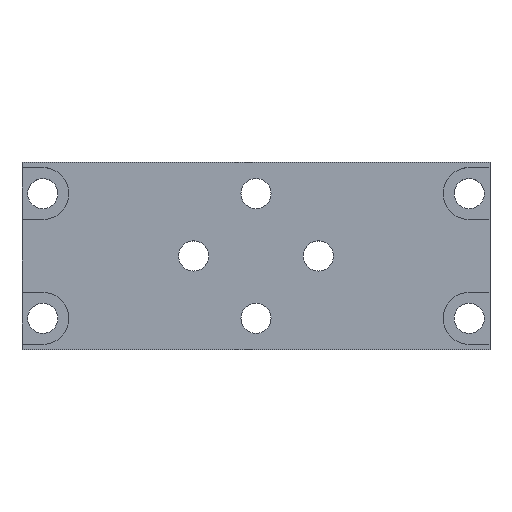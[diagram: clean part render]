
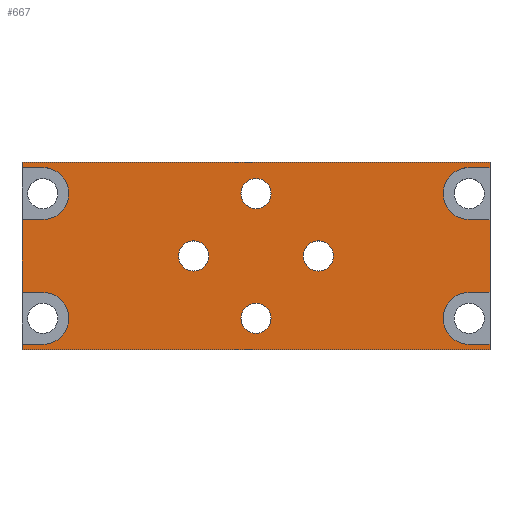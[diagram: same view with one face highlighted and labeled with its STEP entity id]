
A CAD part, top view. The second image highlights one B-rep face of the part: STEP entity #667.
In plain terms, the highlighted planar face has unit normal (0, 0, 1).
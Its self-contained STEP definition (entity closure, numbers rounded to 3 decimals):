
#15=LINE($,#1000,#67);
#19=LINE($,#1009,#71);
#23=LINE($,#1018,#75);
#27=LINE($,#1027,#79);
#31=LINE($,#1036,#83);
#35=LINE($,#1045,#87);
#39=LINE($,#1054,#91);
#43=LINE($,#1063,#95);
#46=LINE($,#1079,#98);
#47=LINE($,#1081,#99);
#48=LINE($,#1083,#100);
#49=LINE($,#1084,#101);
#50=LINE($,#1085,#102);
#51=LINE($,#1088,#103);
#52=LINE($,#1090,#104);
#53=LINE($,#1091,#105);
#67=VECTOR($,#816,2.);
#71=VECTOR($,#822,2.);
#75=VECTOR($,#828,2.);
#79=VECTOR($,#834,2.);
#83=VECTOR($,#840,2.);
#87=VECTOR($,#846,2.);
#91=VECTOR($,#852,2.);
#95=VECTOR($,#858,2.);
#98=VECTOR($,#885,7.);
#99=VECTOR($,#886,0.5);
#100=VECTOR($,#887,45.);
#101=VECTOR($,#888,0.5);
#102=VECTOR($,#889,7.);
#103=VECTOR($,#892,0.5);
#104=VECTOR($,#893,45.);
#105=VECTOR($,#894,0.5);
#147=FACE_BOUND($,#240,.T.);
#148=FACE_BOUND($,#241,.T.);
#149=FACE_BOUND($,#242,.T.);
#150=FACE_BOUND($,#243,.T.);
#151=FACE_BOUND($,#244,.T.);
#240=EDGE_LOOP($,(#526));
#241=EDGE_LOOP($,(#527));
#242=EDGE_LOOP($,(#528));
#243=EDGE_LOOP($,(#529));
#244=EDGE_LOOP($,(#530,#531,#532,#533,#534,#535,#536,#537,#538,#539,#540,
#541,#542,#543,#544,#545,#546,#547,#548,#549));
#276=CIRCLE($,#690,1.45);
#280=CIRCLE($,#697,1.45);
#284=CIRCLE($,#704,1.45);
#288=CIRCLE($,#711,1.45);
#291=CIRCLE($,#724,2.5);
#293=CIRCLE($,#727,2.5);
#295=CIRCLE($,#730,2.5);
#296=CIRCLE($,#732,2.5);
#308=VERTEX_POINT($,#958);
#312=VERTEX_POINT($,#969);
#316=VERTEX_POINT($,#980);
#320=VERTEX_POINT($,#991);
#323=VERTEX_POINT($,#997);
#324=VERTEX_POINT($,#999);
#327=VERTEX_POINT($,#1006);
#328=VERTEX_POINT($,#1008);
#331=VERTEX_POINT($,#1015);
#332=VERTEX_POINT($,#1017);
#335=VERTEX_POINT($,#1024);
#336=VERTEX_POINT($,#1026);
#339=VERTEX_POINT($,#1033);
#340=VERTEX_POINT($,#1035);
#343=VERTEX_POINT($,#1042);
#344=VERTEX_POINT($,#1044);
#347=VERTEX_POINT($,#1051);
#348=VERTEX_POINT($,#1053);
#351=VERTEX_POINT($,#1060);
#352=VERTEX_POINT($,#1062);
#354=VERTEX_POINT($,#1080);
#355=VERTEX_POINT($,#1082);
#356=VERTEX_POINT($,#1087);
#357=VERTEX_POINT($,#1089);
#372=EDGE_CURVE($,#308,#308,#276,.T.);
#376=EDGE_CURVE($,#312,#312,#280,.T.);
#380=EDGE_CURVE($,#316,#316,#284,.T.);
#384=EDGE_CURVE($,#320,#320,#288,.T.);
#387=EDGE_CURVE($,#324,#323,#15,.T.);
#391=EDGE_CURVE($,#328,#327,#19,.T.);
#395=EDGE_CURVE($,#332,#331,#23,.T.);
#399=EDGE_CURVE($,#336,#335,#27,.T.);
#403=EDGE_CURVE($,#340,#339,#31,.T.);
#407=EDGE_CURVE($,#344,#343,#35,.T.);
#411=EDGE_CURVE($,#348,#347,#39,.T.);
#415=EDGE_CURVE($,#352,#351,#43,.T.);
#420=EDGE_CURVE($,#323,#328,#291,.T.);
#422=EDGE_CURVE($,#335,#332,#293,.T.);
#424=EDGE_CURVE($,#339,#344,#295,.T.);
#425=EDGE_CURVE($,#327,#340,#46,.T.);
#426=EDGE_CURVE($,#343,#354,#47,.T.);
#427=EDGE_CURVE($,#354,#355,#48,.T.);
#428=EDGE_CURVE($,#355,#336,#49,.T.);
#429=EDGE_CURVE($,#331,#352,#50,.T.);
#430=EDGE_CURVE($,#351,#348,#296,.T.);
#431=EDGE_CURVE($,#347,#356,#51,.T.);
#432=EDGE_CURVE($,#356,#357,#52,.T.);
#433=EDGE_CURVE($,#357,#324,#53,.T.);
#526=ORIENTED_EDGE($,*,*,#372,.T.);
#527=ORIENTED_EDGE($,*,*,#376,.T.);
#528=ORIENTED_EDGE($,*,*,#380,.T.);
#529=ORIENTED_EDGE($,*,*,#384,.T.);
#530=ORIENTED_EDGE($,*,*,#387,.T.);
#531=ORIENTED_EDGE($,*,*,#420,.T.);
#532=ORIENTED_EDGE($,*,*,#391,.T.);
#533=ORIENTED_EDGE($,*,*,#425,.T.);
#534=ORIENTED_EDGE($,*,*,#403,.T.);
#535=ORIENTED_EDGE($,*,*,#424,.T.);
#536=ORIENTED_EDGE($,*,*,#407,.T.);
#537=ORIENTED_EDGE($,*,*,#426,.T.);
#538=ORIENTED_EDGE($,*,*,#427,.T.);
#539=ORIENTED_EDGE($,*,*,#428,.T.);
#540=ORIENTED_EDGE($,*,*,#399,.T.);
#541=ORIENTED_EDGE($,*,*,#422,.T.);
#542=ORIENTED_EDGE($,*,*,#395,.T.);
#543=ORIENTED_EDGE($,*,*,#429,.T.);
#544=ORIENTED_EDGE($,*,*,#415,.T.);
#545=ORIENTED_EDGE($,*,*,#430,.T.);
#546=ORIENTED_EDGE($,*,*,#411,.T.);
#547=ORIENTED_EDGE($,*,*,#431,.T.);
#548=ORIENTED_EDGE($,*,*,#432,.T.);
#549=ORIENTED_EDGE($,*,*,#433,.T.);
#634=PLANE($,#731);
#667=ADVANCED_FACE($,(#147,#148,#149,#150,#151),#634,.T.);
#690=AXIS2_PLACEMENT_3D($,#959,#768,#769);
#697=AXIS2_PLACEMENT_3D($,#970,#782,#783);
#704=AXIS2_PLACEMENT_3D($,#981,#796,#797);
#711=AXIS2_PLACEMENT_3D($,#992,#810,#811);
#724=AXIS2_PLACEMENT_3D($,#1071,#869,#870);
#727=AXIS2_PLACEMENT_3D($,#1074,#875,#876);
#730=AXIS2_PLACEMENT_3D($,#1077,#881,#882);
#731=AXIS2_PLACEMENT_3D($,#1078,#883,#884);
#732=AXIS2_PLACEMENT_3D($,#1086,#890,#891);
#768=DIRECTION('center_axis',(0.,0.,-1.));
#769=DIRECTION('ref_axis',(-1.,0.,0.));
#782=DIRECTION('center_axis',(0.,0.,-1.));
#783=DIRECTION('ref_axis',(-1.,0.,0.));
#796=DIRECTION('center_axis',(0.,0.,-1.));
#797=DIRECTION('ref_axis',(-1.,0.,0.));
#810=DIRECTION('center_axis',(0.,0.,-1.));
#811=DIRECTION('ref_axis',(-1.,0.,0.));
#816=DIRECTION($,(-1.,0.,0.));
#822=DIRECTION($,(1.,0.,0.));
#828=DIRECTION($,(-1.,0.,0.));
#834=DIRECTION($,(1.,0.,0.));
#840=DIRECTION($,(-1.,0.,0.));
#846=DIRECTION($,(1.,0.,0.));
#852=DIRECTION($,(-1.,0.,0.));
#858=DIRECTION($,(1.,0.,0.));
#869=DIRECTION('center_axis',(0.,0.,-1.));
#870=DIRECTION('ref_axis',(1.,0.,0.));
#875=DIRECTION('center_axis',(0.,0.,-1.));
#876=DIRECTION('ref_axis',(1.,0.,0.));
#881=DIRECTION('center_axis',(0.,0.,-1.));
#882=DIRECTION('ref_axis',(1.,0.,0.));
#883=DIRECTION('center_axis',(0.,0.,1.));
#884=DIRECTION('ref_axis',(1.,0.,0.));
#885=DIRECTION($,(0.,1.,0.));
#886=DIRECTION($,(0.,1.,0.));
#887=DIRECTION($,(-1.,0.,0.));
#888=DIRECTION($,(0.,-1.,0.));
#889=DIRECTION($,(0.,-1.,0.));
#890=DIRECTION('center_axis',(0.,0.,-1.));
#891=DIRECTION('ref_axis',(1.,0.,0.));
#892=DIRECTION($,(0.,-1.,0.));
#893=DIRECTION($,(1.,0.,0.));
#894=DIRECTION($,(0.,1.,0.));
#958=CARTESIAN_POINT('',(7.45,0.,2.5));
#959=CARTESIAN_POINT('Origin',(6.,0.,2.5));
#969=CARTESIAN_POINT('',(1.45,6.,2.5));
#970=CARTESIAN_POINT('Origin',(0.,6.,2.5));
#980=CARTESIAN_POINT('',(1.45,-6.,2.5));
#981=CARTESIAN_POINT('Origin',(0.,-6.,2.5));
#991=CARTESIAN_POINT('',(-4.55,0.,2.5));
#992=CARTESIAN_POINT('Origin',(-6.,0.,2.5));
#997=CARTESIAN_POINT('',(20.5,-8.5,2.5));
#999=CARTESIAN_POINT('',(22.5,-8.5,2.5));
#1000=CARTESIAN_POINT($,(11.25,-8.5,2.5));
#1006=CARTESIAN_POINT('',(22.5,-3.5,2.5));
#1008=CARTESIAN_POINT('',(20.5,-3.5,2.5));
#1009=CARTESIAN_POINT($,(10.25,-3.5,2.5));
#1015=CARTESIAN_POINT('',(-22.5,3.5,2.5));
#1017=CARTESIAN_POINT('',(-20.5,3.5,2.5));
#1018=CARTESIAN_POINT($,(-10.25,3.5,2.5));
#1024=CARTESIAN_POINT('',(-20.5,8.5,2.5));
#1026=CARTESIAN_POINT('',(-22.5,8.5,2.5));
#1027=CARTESIAN_POINT($,(-11.25,8.5,2.5));
#1033=CARTESIAN_POINT('',(20.5,3.5,2.5));
#1035=CARTESIAN_POINT('',(22.5,3.5,2.5));
#1036=CARTESIAN_POINT($,(11.25,3.5,2.5));
#1042=CARTESIAN_POINT('',(22.5,8.5,2.5));
#1044=CARTESIAN_POINT('',(20.5,8.5,2.5));
#1045=CARTESIAN_POINT($,(10.25,8.5,2.5));
#1051=CARTESIAN_POINT('',(-22.5,-8.5,2.5));
#1053=CARTESIAN_POINT('',(-20.5,-8.5,2.5));
#1054=CARTESIAN_POINT($,(-10.25,-8.5,2.5));
#1060=CARTESIAN_POINT('',(-20.5,-3.5,2.5));
#1062=CARTESIAN_POINT('',(-22.5,-3.5,2.5));
#1063=CARTESIAN_POINT($,(-11.25,-3.5,2.5));
#1071=CARTESIAN_POINT('Origin',(20.5,-6.,2.5));
#1074=CARTESIAN_POINT('Origin',(-20.5,6.,2.5));
#1077=CARTESIAN_POINT('Origin',(20.5,6.,2.5));
#1078=CARTESIAN_POINT('Origin',(0.,0.,
2.5));
#1079=CARTESIAN_POINT($,(22.5,-9.,2.5));
#1080=CARTESIAN_POINT('',(22.5,9.,2.5));
#1081=CARTESIAN_POINT($,(22.5,-9.,2.5));
#1082=CARTESIAN_POINT('',(-22.5,9.,2.5));
#1083=CARTESIAN_POINT($,(22.5,9.,2.5));
#1084=CARTESIAN_POINT($,(-22.5,9.,2.5));
#1085=CARTESIAN_POINT($,(-22.5,9.,2.5));
#1086=CARTESIAN_POINT('Origin',(-20.5,-6.,2.5));
#1087=CARTESIAN_POINT('',(-22.5,-9.,2.5));
#1088=CARTESIAN_POINT($,(-22.5,9.,2.5));
#1089=CARTESIAN_POINT('',(22.5,-9.,2.5));
#1090=CARTESIAN_POINT($,(-22.5,-9.,2.5));
#1091=CARTESIAN_POINT($,(22.5,-9.,2.5));
